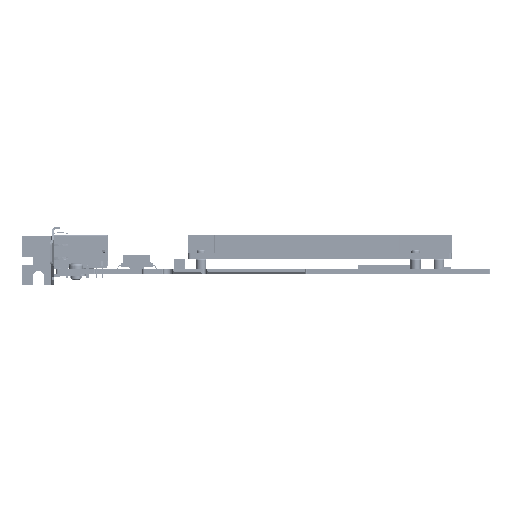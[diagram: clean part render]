
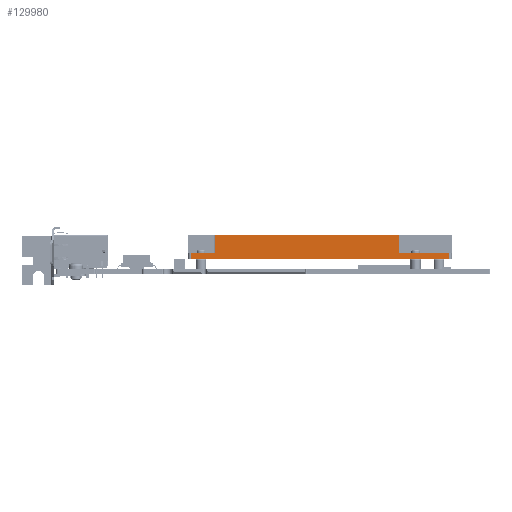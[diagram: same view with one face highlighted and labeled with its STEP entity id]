
A CAD part, front view. The second image highlights one B-rep face of the part: STEP entity #129980.
In plain terms, the highlighted planar face has unit normal (0, -1, 0) as drawn and (1, 0, 0) by its records, which use the part's own axes.
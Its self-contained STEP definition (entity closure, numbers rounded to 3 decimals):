
#125975=DIRECTION('',(0.,0.,1.));
#125976=VECTOR('',#125975,19.5);
#125977=CARTESIAN_POINT('',(30.,1.15,1.));
#125978=LINE('',#125977,#125976);
#125991=DIRECTION('',(0.,0.,1.));
#125992=VECTOR('',#125991,9.4);
#125993=CARTESIAN_POINT('',(30.,1.15,91.6));
#125994=LINE('',#125993,#125992);
#126650=DIRECTION('',(0.,1.,0.));
#126651=VECTOR('',#126650,7.);
#126652=CARTESIAN_POINT('',(30.,1.15,20.5));
#126653=LINE('',#126652,#126651);
#126654=DIRECTION('',(0.,-1.,0.));
#126655=VECTOR('',#126654,2.3);
#126656=CARTESIAN_POINT('',(30.,1.15,1.));
#126657=LINE('',#126656,#126655);
#126658=DIRECTION('',(0.,0.,1.));
#126659=VECTOR('',#126658,100.);
#126660=CARTESIAN_POINT('',(30.,-1.15,1.));
#126661=LINE('',#126660,#126659);
#126662=DIRECTION('',(0.,-1.,0.));
#126663=VECTOR('',#126662,2.3);
#126664=CARTESIAN_POINT('',(30.,1.15,101.));
#126665=LINE('',#126664,#126663);
#126666=DIRECTION('',(0.,-1.,0.));
#126667=VECTOR('',#126666,7.);
#126668=CARTESIAN_POINT('',(30.,8.15,91.6));
#126669=LINE('',#126668,#126667);
#126680=DIRECTION('',(0.,0.,-1.));
#126681=VECTOR('',#126680,71.1);
#126682=CARTESIAN_POINT('',(30.,8.15,91.6));
#126683=LINE('',#126682,#126681);
#128280=CARTESIAN_POINT('',(30.,-1.15,101.));
#128282=VERTEX_POINT('',#128280);
#128286=CARTESIAN_POINT('',(30.,1.15,101.));
#128287=VERTEX_POINT('',#128286);
#128289=CARTESIAN_POINT('',(30.,-1.15,1.));
#128291=VERTEX_POINT('',#128289);
#128292=CARTESIAN_POINT('',(30.,1.15,1.));
#128293=VERTEX_POINT('',#128292);
#128304=CARTESIAN_POINT('',(30.,8.15,20.5));
#128306=VERTEX_POINT('',#128304);
#128310=CARTESIAN_POINT('',(30.,1.15,20.5));
#128311=VERTEX_POINT('',#128310);
#128340=CARTESIAN_POINT('',(30.,8.15,91.6));
#128341=VERTEX_POINT('',#128340);
#128342=CARTESIAN_POINT('',(30.,1.15,91.6));
#128343=VERTEX_POINT('',#128342);
#129961=CARTESIAN_POINT('',(30.,-1.15,0.));
#129962=DIRECTION('',(1.,0.,0.));
#129963=DIRECTION('',(0.,1.,0.));
#129964=AXIS2_PLACEMENT_3D('',#129961,#129962,#129963);
#129965=PLANE('',#129964);
#129967=ORIENTED_EDGE('',*,*,#129966,.F.);
#129968=ORIENTED_EDGE('',*,*,#129049,.F.);
#129970=ORIENTED_EDGE('',*,*,#129969,.T.);
#129971=ORIENTED_EDGE('',*,*,#129696,.T.);
#129972=ORIENTED_EDGE('',*,*,#129956,.F.);
#129973=ORIENTED_EDGE('',*,*,#129064,.F.);
#129975=ORIENTED_EDGE('',*,*,#129974,.F.);
#129977=ORIENTED_EDGE('',*,*,#129976,.T.);
#129978=EDGE_LOOP('',(#129967,#129968,#129970,#129971,#129972,#129973,#129975,
#129977));
#129979=FACE_OUTER_BOUND('',#129978,.F.);
#129980=ADVANCED_FACE('',(#129979),#129965,.T.);
#129049=EDGE_CURVE('',#128293,#128311,#125978,.T.);
#129064=EDGE_CURVE('',#128343,#128287,#125994,.T.);
#129696=EDGE_CURVE('',#128291,#128282,#126661,.T.);
#129956=EDGE_CURVE('',#128287,#128282,#126665,.T.);
#129966=EDGE_CURVE('',#128311,#128306,#126653,.T.);
#129969=EDGE_CURVE('',#128293,#128291,#126657,.T.);
#129974=EDGE_CURVE('',#128341,#128343,#126669,.T.);
#129976=EDGE_CURVE('',#128341,#128306,#126683,.T.);
